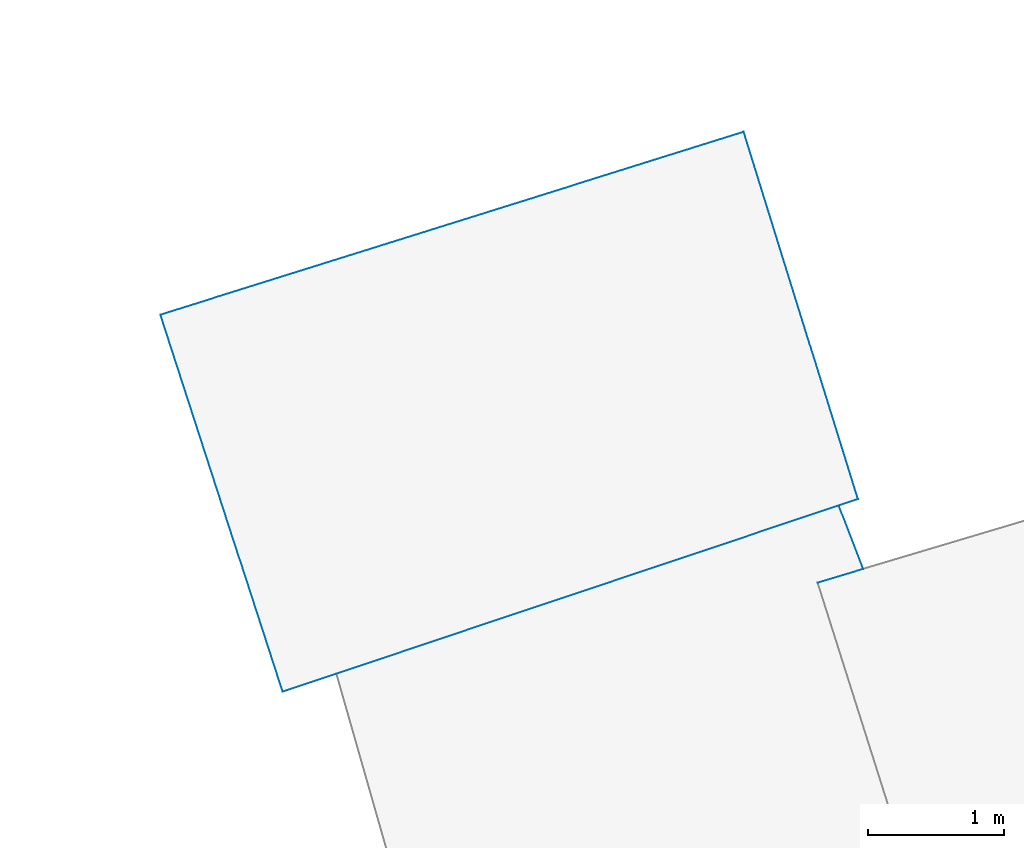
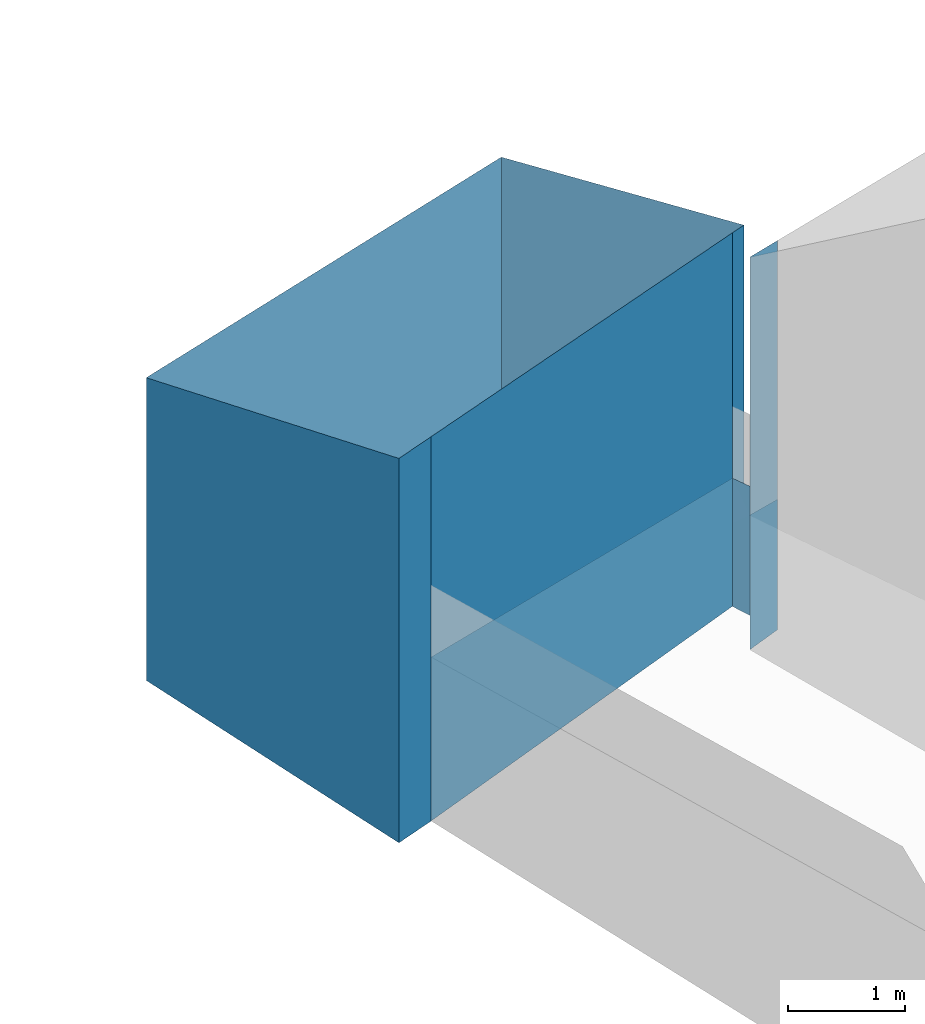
# Not in any storey, part 19 of 57: 10 walls.
"""IFC4 building model written with IfcOpenShell, lengths in metres."""

import ifcopenshell
import ifcopenshell.guid

model = None  # the IFC model being written
_history = None  # IfcOwnerHistory: only IFC2X3 demands one
_inside = {}  # id of a spatial element -> (the spatial element, [elements in it])
_under = {}  # id of a project, library or spatial element -> (it, [spatial elements below it])
_declared = {}  # id of a project -> (the project, [libraries it declares])
_typed = {}  # id of a type object -> (the type object, [elements of that type])
_made_of = {}  # id of a material, layer set ... -> (it, [elements and type objects made of it])


def new_model(schema):
    """Start an empty IFC model of exactly this schema.

    Asked for "IFC4X3", IfcOpenShell would pick the latest addendum, in which some entities
    have other attributes; the version numbers below select the first issue.
    IFC2X3 requires an IfcOwnerHistory on every rooted entity: one is made here for all.
    """
    global model, _history
    if schema == "IFC4X3":
        model = ifcopenshell.file(schema_version=(4, 3, 0, 0))
    else:
        model = ifcopenshell.file(schema=schema)
    _inside.clear()
    _under.clear()
    _declared.clear()
    _typed.clear()
    _made_of.clear()
    _history = None
    if model.schema == "IFC2X3":
        org = make("IfcOrganization", Name="unknown")
        user = make(
            "IfcPersonAndOrganization",
            ThePerson=make("IfcPerson", FamilyName="unknown"),
            TheOrganization=org,
        )
        app = make(
            "IfcApplication",
            ApplicationDeveloper=org,
            Version="unknown",
            ApplicationFullName="unknown",
            ApplicationIdentifier="unknown",
        )
        _history = make(
            "IfcOwnerHistory",
            OwningUser=user,
            OwningApplication=app,
            ChangeAction="ADDED",
            CreationDate=0,
        )
    return model


def make(cls, **values):
    """One entity of the class cls with the attributes given. An attribute that is None is left unset."""
    return model.create_entity(
        cls, **{name: value for name, value in values.items() if value is not None}
    )


def entity(cls, *values):
    """Any entity or typed value of the class cls, its attributes in the order of the schema. None: left unset."""
    e = model.create_entity(cls)
    for i, value in enumerate(values):
        if value is not None:
            e[i] = value
    return e


def rooted(cls, **values):
    """An entity with a GlobalId (a new one), such as an element, a storey or a relation."""
    return make(cls, GlobalId=ifcopenshell.guid.new(), OwnerHistory=_history, **values)


def si_unit(unit_type, name, prefix=None):
    """IfcSIUnit, for example si_unit("LENGTHUNIT", "METRE", prefix="MILLI")."""
    return make("IfcSIUnit", UnitType=unit_type, Prefix=prefix, Name=name)


def converted_unit(unit_type, name, factor, base, dimensions=None, offset=None):
    """IfcConversionBasedUnit, such as the inch: factor (a typed value) times the base unit."""
    return make(
        "IfcConversionBasedUnit"
        if offset is None
        else "IfcConversionBasedUnitWithOffset",
        ConversionOffset=offset,
        Dimensions=None
        if dimensions is None
        else entity("IfcDimensionalExponents", *dimensions),
        UnitType=unit_type,
        Name=name,
        ConversionFactor=make(
            "IfcMeasureWithUnit", ValueComponent=factor, UnitComponent=base
        ),
    )


def assignment(units):
    """IfcUnitAssignment: the units of a project."""
    return None if units is None else make("IfcUnitAssignment", Units=units)


def point(xyz):
    """IfcCartesianPoint."""
    return None if xyz is None else make("IfcCartesianPoint", Coordinates=xyz)


def direction(xyz):
    """IfcDirection."""
    return None if xyz is None else make("IfcDirection", DirectionRatios=xyz)


def frame(location, z_axis=None, x_axis=None):
    """IfcAxis2Placement3D, a coordinate frame: its origin and axes. An axis left out is left unset."""
    return make(
        "IfcAxis2Placement3D",
        Location=point(location),
        Axis=direction(z_axis),
        RefDirection=direction(x_axis),
    )


def origin():
    """The frame at (0, 0, 0) with its axes left unset."""
    return frame((0.0, 0.0, 0.0))


def place(relative_to, where):
    """IfcLocalPlacement: puts the frame where relative to a parent placement (None: the world)."""
    return make(
        "IfcLocalPlacement", PlacementRelTo=relative_to, RelativePlacement=where
    )


def context(
    kind, dimensions, precision=None, world=None, true_north=None, identifier=None
):
    """IfcGeometricRepresentationContext, for example the 3D "Model" context."""
    return make(
        "IfcGeometricRepresentationContext",
        ContextIdentifier=identifier,
        ContextType=kind,
        CoordinateSpaceDimension=dimensions,
        Precision=precision,
        WorldCoordinateSystem=world,
        TrueNorth=true_north,
    )


def subcontext(parent, identifier, kind, view, scale=None):
    """IfcGeometricRepresentationSubContext, for example "Body" below "Model"."""
    return make(
        "IfcGeometricRepresentationSubContext",
        ContextIdentifier=identifier,
        ContextType=kind,
        ParentContext=parent,
        TargetScale=scale,
        TargetView=view,
    )


def project(units=None, contexts=None):
    """IfcProject with its units and contexts."""
    return rooted(
        "IfcProject",
        Name="project",
        RepresentationContexts=contexts,
        UnitsInContext=assignment(units),
    )


def spatial(cls, under=None, at=None, **own):
    """A site, building, storey or space (cls), placed at a placement, below another one or the project."""
    s = rooted(cls, ObjectPlacement=at, **own)
    if under is not None:
        _under.setdefault(under.id(), (under, []))[1].append(s)
    return s


def faces_of(points, faces, orient=None, outer=None):
    """IfcFace entities. A face is a list of loops; a loop is a list of indices into points, from 0.

    orient and outer hold one flag for each loop. By default every Orientation is true, the
    first loop of a face is its IfcFaceOuterBound and the others are IfcFaceBound.
    """
    made = []
    for i, loops in enumerate(faces):
        bounds = []
        for j, loop in enumerate(loops):
            is_outer = j == 0 if outer is None else outer[i][j]
            bounds.append(
                make(
                    "IfcFaceOuterBound" if is_outer else "IfcFaceBound",
                    Bound=make("IfcPolyLoop", Polygon=[points[k] for k in loop]),
                    Orientation=True if orient is None else orient[i][j],
                )
            )
        made.append(make("IfcFace", Bounds=bounds))
    return made


def face_set(faces, orient=None, outer=None):
    """The faces of one IfcConnectedFaceSet. surface_model builds it on its shared points."""
    return ("IfcConnectedFaceSet", faces, orient, outer)


def surface_model(cls, points, shells):
    """IfcFaceBasedSurfaceModel or IfcShellBasedSurfaceModel (cls): surfaces that need not close."""
    shared = [point(p) for p in points]
    made = [make(c, CfsFaces=faces_of(shared, fs, o, b)) for c, fs, o, b in shells]
    if cls == "IfcFaceBasedSurfaceModel":
        return make(cls, FbsmFaces=made)
    return make(cls, SbsmBoundary=made)


def shape(context_of_items, identifier, shape_type, items):
    """IfcShapeRepresentation: the items that make up one representation, for example the "Body"."""
    return make(
        "IfcShapeRepresentation",
        ContextOfItems=context_of_items,
        RepresentationIdentifier=identifier,
        RepresentationType=shape_type,
        Items=items,
    )


def made_of(thing, what):
    """Note that an element or type object is made of a material, layer set ...; save() writes the relation."""
    if what is not None:
        _made_of.setdefault(what.id(), (what, []))[1].append(thing)
    return thing


def element(
    cls,
    number,
    at=None,
    inside=None,
    cuts=None,
    type_object=None,
    material=None,
    context=None,
    identifier="Body",
    shape_type=None,
    held_by="IfcProductDefinitionShape",
    body=None,
    shapes=None,
    **own,
):
    """One element of the class cls, such as IfcWall. Its Tag is "e" and its number.

    at: its placement. inside: the storey or other place that contains it. cuts: it is an
    opening in that element (IfcRelVoidsElement). A single representation is given by context,
    identifier, shape_type and body (its items); several are given by shapes. held_by: the class
    of the entity that holds the representations. save() writes the other relations.
    """
    e = rooted(cls, Tag="e%d" % number, ObjectPlacement=at, **own)
    if body is not None:
        shapes = [shape(context, identifier, shape_type, body)]
    if shapes is not None:
        e.Representation = make(held_by, Representations=shapes)
    if inside is not None:
        _inside.setdefault(inside.id(), (inside, []))[1].append(e)
    if cuts is not None:
        rooted(
            "IfcRelVoidsElement", RelatingBuildingElement=cuts, RelatedOpeningElement=e
        )
    if type_object is not None:
        _typed.setdefault(type_object.id(), (type_object, []))[1].append(e)
    return made_of(e, material)


def aggregate(whole, parts):
    """IfcRelAggregates: a whole, such as a stair, and the parts it consists of."""
    return rooted("IfcRelAggregates", RelatingObject=whole, RelatedObjects=parts)


def save(model, path):
    """Write the relations noted so far, then the file.

    IfcRelAggregates (storeys below a building ...), IfcRelContainedInSpatialStructure (elements
    in a storey), IfcRelDefinesByType, IfcRelAssociatesMaterial and IfcRelDeclares: one each for
    every whole, place, type object, material and project.
    """
    for whole, parts in _under.values():
        aggregate(whole, parts)
    for where, things in _inside.values():
        rooted(
            "IfcRelContainedInSpatialStructure",
            RelatedElements=things,
            RelatingStructure=where,
        )
    for kind, things in _typed.values():
        rooted("IfcRelDefinesByType", RelatedObjects=things, RelatingType=kind)
    for what, things in _made_of.values():
        rooted("IfcRelAssociatesMaterial", RelatedObjects=things, RelatingMaterial=what)
    for by, libraries in _declared.values():
        rooted("IfcRelDeclares", RelatingContext=by, RelatedDefinitions=libraries)
    model.write(path)


model = new_model("IFC4")

# Units and contexts
model_context = context("Model", 3, precision=1e-05, world=origin())
body_context = subcontext(model_context, "Body", "Model", "MODEL_VIEW")
ifc_project = project(units=[converted_unit("PLANEANGLEUNIT", "DEGREE", entity("IfcRatioMeasure", 0.0174532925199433), si_unit("PLANEANGLEUNIT", "RADIAN"), dimensions=[0, 0, 0, 0, 0, 0, 0]), si_unit("AREAUNIT", "SQUARE_METRE"), si_unit("LENGTHUNIT", "METRE")], contexts=[model_context])

# Site, building
site_placement = place(None, origin())
site = spatial("IfcSite", under=ifc_project, at=site_placement, Name="_site")
building_1_placement = place(site_placement, origin())
building_1 = spatial("IfcBuilding", under=site, at=building_1_placement, Name="_building")

# Walls
wall_1_placement = place(building_1_placement, origin())
element("IfcWall", 1, at=wall_1_placement, inside=building_1, Name="Wall", PredefinedType="NOTDEFINED", context=body_context, shape_type="SurfaceModel", body=[
    surface_model("IfcFaceBasedSurfaceModel", [(115.856, 141.4, 121.649), (115.462, 141.268, 121.64), (115.462, 141.268, 117.632), (115.856, 141.4, 117.642)], [face_set([[[0, 1, 2, 3]]])]),
])
wall_2_placement = place(building_1_placement, origin())
element("IfcWall", 2, at=wall_2_placement, inside=building_1, Name="Wall", PredefinedType="NOTDEFINED", context=body_context, shape_type="SurfaceModel", body=[
    surface_model("IfcFaceBasedSurfaceModel", [(119.678, 142.68, 121.74), (119.537, 142.633, 121.737), (119.537, 142.633, 117.842), (119.678, 142.68, 117.857)], [face_set([[[0, 1, 2, 3]]])]),
])
wall_3_placement = place(building_1_placement, origin())
element("IfcWall", 3, at=wall_3_placement, inside=building_1, Name="Wall", PredefinedType="NOTDEFINED", context=body_context, shape_type="SurfaceModel", body=[
    surface_model("IfcFaceBasedSurfaceModel", [(115.856, 141.4, 119.351), (119.537, 142.633, 119.18), (119.537, 142.633, 117.842), (115.856, 141.4, 117.642)], [face_set([[[0, 1, 2, 3]]])]),
])
wall_4_placement = place(building_1_placement, origin())
element("IfcWall", 4, at=wall_4_placement, inside=building_1, Name="Wall", PredefinedType="NOTDEFINED", context=body_context, shape_type="SurfaceModel", body=[
    surface_model("IfcFaceBasedSurfaceModel", [(119.537, 142.633, 119.18), (119.717, 142.168, 119.18), (119.717, 142.168, 117.82), (119.537, 142.633, 117.842)], [face_set([[[0, 1, 2, 3]]])]),
])
wall_5_placement = place(building_1_placement, origin())
element("IfcWall", 5, at=wall_5_placement, inside=building_1, Name="Wall", PredefinedType="NOTDEFINED", context=body_context, shape_type="SurfaceModel", body=[
    surface_model("IfcFaceBasedSurfaceModel", [(119.537, 142.633, 121.737), (115.856, 141.4, 121.649), (115.856, 141.4, 117.642), (119.537, 142.633, 117.842)], [face_set([[[0, 1, 2, 3]]])]),
])
wall_6_placement = place(building_1_placement, origin())
element("IfcWall", 6, at=wall_6_placement, inside=building_1, Name="Wall", PredefinedType="NOTDEFINED", context=body_context, shape_type="SurfaceModel", body=[
    surface_model("IfcFaceBasedSurfaceModel", [(118.84, 145.371, 121.11), (119.678, 142.68, 121.74), (119.678, 142.68, 117.857), (118.84, 145.371, 118.038)], [face_set([[[0, 1, 2, 3]]])]),
])
wall_7_placement = place(building_1_placement, origin())
element("IfcWall", 7, at=wall_7_placement, inside=building_1, Name="Wall", PredefinedType="NOTDEFINED", context=body_context, shape_type="SurfaceModel", body=[
    surface_model("IfcFaceBasedSurfaceModel", [(114.566, 144.031, 121.12), (118.84, 145.371, 121.11), (118.84, 145.371, 118.038), (114.566, 144.031, 117.963)], [face_set([[[0, 1, 2, 3]]])]),
])
wall_8_placement = place(building_1_placement, origin())
element("IfcWall", 8, at=wall_8_placement, inside=building_1, Name="Wall", PredefinedType="NOTDEFINED", context=body_context, shape_type="SurfaceModel", body=[
    surface_model("IfcFaceBasedSurfaceModel", [(115.462, 141.268, 121.64), (114.566, 144.031, 121.12), (114.566, 144.031, 117.963), (115.462, 141.268, 117.632)], [face_set([[[0, 1, 2, 3]]])]),
])

# Building
building_2_placement = place(site_placement, origin())
building_2 = spatial("IfcBuilding", under=site, at=building_2_placement, Name="_building")

# Walls
wall_9_placement = place(building_2_placement, origin())
element("IfcWall", 9, at=wall_9_placement, inside=building_2, Name="Wall", PredefinedType="NOTDEFINED", context=body_context, shape_type="SurfaceModel", body=[
    surface_model("IfcFaceBasedSurfaceModel", [(119.717, 142.168, 119.18), (119.383, 142.067, 119.192), (119.383, 142.067, 117.787), (119.717, 142.168, 117.82)], [face_set([[[0, 1, 2, 3]]])]),
])
wall_10_placement = place(building_2_placement, origin())
element("IfcWall", 10, at=wall_10_placement, inside=building_2, Name="Wall", PredefinedType="NOTDEFINED", context=body_context, shape_type="SurfaceModel", body=[
    surface_model("IfcFaceBasedSurfaceModel", [(119.383, 142.067, 121.88), (119.717, 142.168, 121.877), (119.717, 142.168, 117.82), (119.383, 142.067, 117.787)], [face_set([[[0, 1, 2, 3]]])]),
])

save(model, "model.ifc")
